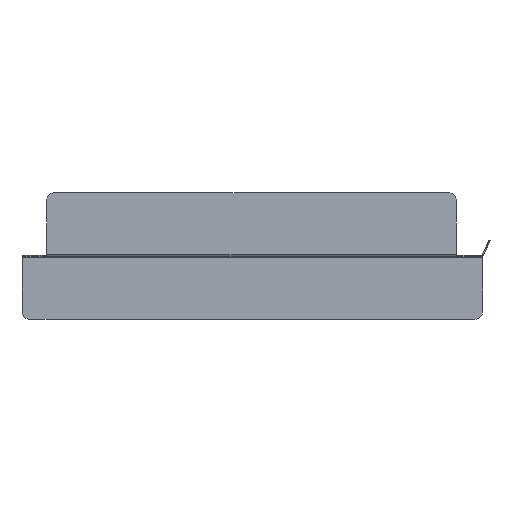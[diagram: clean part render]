
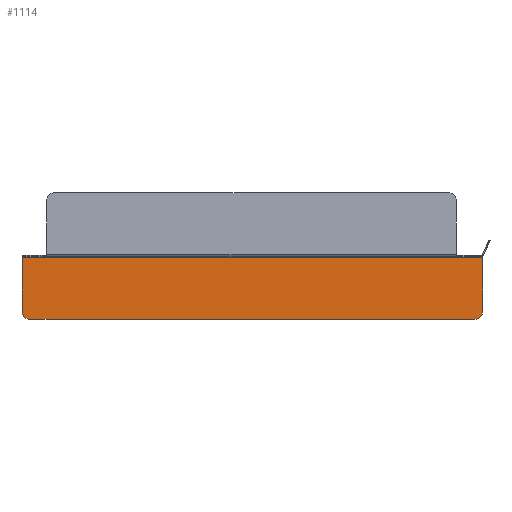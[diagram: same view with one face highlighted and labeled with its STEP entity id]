
A CAD part, left-side view. The second image highlights one B-rep face of the part: STEP entity #1114.
In plain terms, the highlighted planar face has unit normal (-1, 0, 0).
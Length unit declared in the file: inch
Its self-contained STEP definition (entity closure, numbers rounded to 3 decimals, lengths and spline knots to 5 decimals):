
#78=PLANE('',#1216);
#113=FACE_OUTER_BOUND('',#196,.T.);
#196=EDGE_LOOP('',(#839,#840,#841,#842,#843,#844,#845));
#318=LINE('',#1788,#394);
#321=LINE('',#1794,#397);
#322=LINE('',#1798,#398);
#323=LINE('',#1800,#399);
#324=LINE('',#1801,#400);
#394=VECTOR('',#1423,0.04608);
#397=VECTOR('',#1428,0.3937);
#398=VECTOR('',#1431,0.04608);
#399=VECTOR('',#1432,0.3937);
#400=VECTOR('',#1433,0.3937);
#470=CIRCLE('',#1214,0.25);
#471=CIRCLE('',#1217,0.25);
#562=VERTEX_POINT('',#1781);
#563=VERTEX_POINT('',#1783);
#564=VERTEX_POINT('',#1787);
#566=VERTEX_POINT('',#1793);
#567=VERTEX_POINT('',#1795);
#568=VERTEX_POINT('',#1797);
#569=VERTEX_POINT('',#1799);
#673=EDGE_CURVE('',#562,#563,#470,.T.);
#675=EDGE_CURVE('',#563,#564,#318,.T.);
#678=EDGE_CURVE('',#562,#566,#321,.T.);
#679=EDGE_CURVE('',#567,#566,#471,.T.);
#680=EDGE_CURVE('',#567,#568,#322,.T.);
#681=EDGE_CURVE('',#568,#569,#323,.T.);
#682=EDGE_CURVE('',#569,#564,#324,.T.);
#839=ORIENTED_EDGE('',*,*,#673,.F.);
#840=ORIENTED_EDGE('',*,*,#678,.T.);
#841=ORIENTED_EDGE('',*,*,#679,.F.);
#842=ORIENTED_EDGE('',*,*,#680,.T.);
#843=ORIENTED_EDGE('',*,*,#681,.T.);
#844=ORIENTED_EDGE('',*,*,#682,.T.);
#845=ORIENTED_EDGE('',*,*,#675,.F.);
#1114=ADVANCED_FACE('',(#113),#78,.F.);
#1214=AXIS2_PLACEMENT_3D('',#1784,#1418,#1419);
#1216=AXIS2_PLACEMENT_3D('',#1792,#1426,#1427);
#1217=AXIS2_PLACEMENT_3D('',#1796,#1429,#1430);
#1418=DIRECTION('center_axis',(1.,0.,0.));
#1419=DIRECTION('ref_axis',(0.,0.707,-0.707));
#1423=DIRECTION('',(0.,0.,1.));
#1426=DIRECTION('center_axis',(1.,0.,0.));
#1427=DIRECTION('ref_axis',(0.,0.,-1.));
#1428=DIRECTION('',(0.,-1.,0.));
#1429=DIRECTION('center_axis',(1.,0.,0.));
#1430=DIRECTION('ref_axis',(0.,-0.707,-0.707));
#1431=DIRECTION('',(0.,0.,1.));
#1432=DIRECTION('',(0.,1.,0.));
#1433=DIRECTION('',(0.,1.,0.));
#1781=CARTESIAN_POINT('',(9.40206,0.2,-1.968));
#1783=CARTESIAN_POINT('',(9.40206,0.45,-1.718));
#1784=CARTESIAN_POINT('Origin',(9.40206,0.2,-1.718));
#1787=CARTESIAN_POINT('',(9.40206,0.45,-0.032));
#1788=CARTESIAN_POINT('',(9.40206,0.45,0.11276));
#1792=CARTESIAN_POINT('Origin',(9.40206,-6.76909,-0.96381));
#1793=CARTESIAN_POINT('',(9.40206,-13.73819,-1.968));
#1794=CARTESIAN_POINT('',(9.40206,0.45,-1.968));
#1795=CARTESIAN_POINT('',(9.40206,-13.98819,-1.718));
#1796=CARTESIAN_POINT('Origin',(9.40206,-13.73819,-1.718));
#1797=CARTESIAN_POINT('',(9.40206,-13.98819,-0.032));
#1798=CARTESIAN_POINT('',(9.40206,-13.98819,0.11276));
#1799=CARTESIAN_POINT('',(9.40206,-13.94742,-0.032));
#1800=CARTESIAN_POINT('',(9.40206,-6.76909,-0.032));
#1801=CARTESIAN_POINT('',(9.40206,-6.76909,-0.032));
